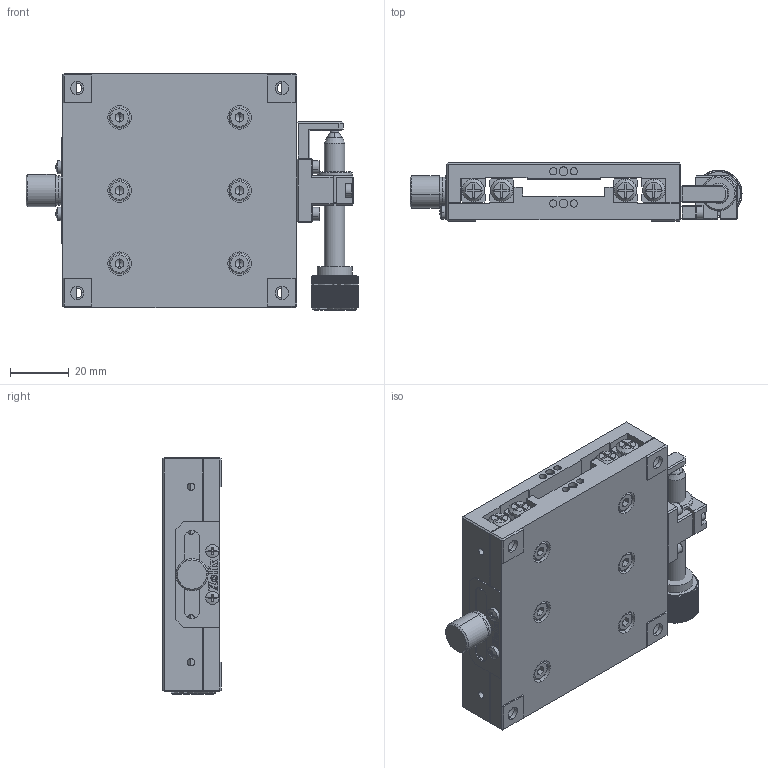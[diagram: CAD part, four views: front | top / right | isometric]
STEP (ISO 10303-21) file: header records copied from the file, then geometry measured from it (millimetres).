
FILE_DESCRIPTION (( 'STEP AP203' ), '1' );
FILE_NAME ('AK25-8020SL.step', '2019-05-08T06:33:28', ( '' ), ( '' ), 'SwSTEP 2.0', 'SolidWorks 2017', '' );
FILE_SCHEMA (( 'CONFIG_CONTROL_DESIGN' ));
Length unit declared in the file: millimetre
Products named in the file (1): AK25-8020SL
Bounding box: 113.5 x 20 x 81 mm (x, y, z)
Surface area: 47511.2 mm2 (no closed solid volume)
Topology: 0 solids, 42 shells, 1259 faces, 3771 edges, 2460 vertices
Faces by surface type: plane 758, cylinder 294, cone 167, torus 34, sphere 6
Entity records: 42374 total; most frequent: CARTESIAN_POINT 9137, DIRECTION 6792, ORIENTED_EDGE 6602, EDGE_CURVE 3735, VERTEX_POINT 2460, AXIS2_PLACEMENT_3D 2335, VECTOR 2122, LINE 2122
